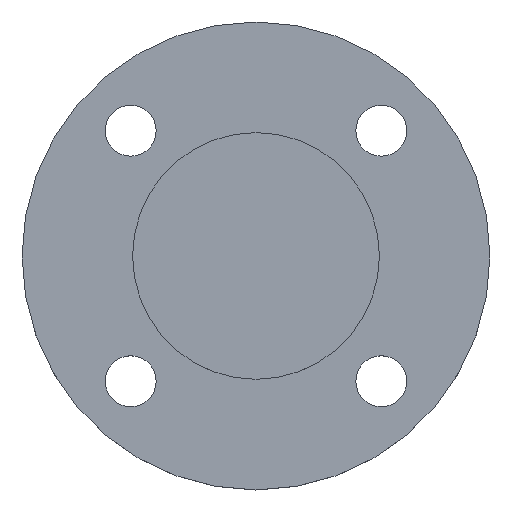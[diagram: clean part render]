
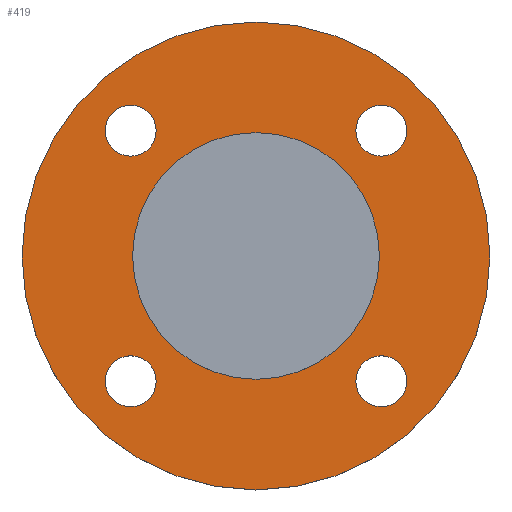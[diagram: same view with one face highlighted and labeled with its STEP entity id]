
A CAD part, top view. The second image highlights one B-rep face of the part: STEP entity #419.
In plain terms, the highlighted planar face has unit normal (0, 0, 1).
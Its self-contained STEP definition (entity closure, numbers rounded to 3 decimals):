
#7 = EDGE_CURVE ( 'NONE', #604, #645, #9, .T. ) ;
#9 = CIRCLE ( 'NONE', #10, 9. ) ;
#10 = AXIS2_PLACEMENT_3D ( 'NONE', #654, #658, #659 ) ;
#11 = EDGE_CURVE ( 'NONE', #600, #479, #18, .T. ) ;
#16 = AXIS2_PLACEMENT_3D ( 'NONE', #210, #365, #408 ) ;
#18 = CIRCLE ( 'NONE', #19, 9. ) ;
#19 = AXIS2_PLACEMENT_3D ( 'NONE', #661, #665, #666 ) ;
#20 = AXIS2_PLACEMENT_3D ( 'NONE', #100, #99, #96 ) ;
#23 = EDGE_CURVE ( 'NONE', #645, #604, #50, .T. ) ;
#26 = EDGE_CURVE ( 'NONE', #479, #600, #63, .T. ) ;
#50 = CIRCLE ( 'NONE', #62, 9. ) ;
#62 = AXIS2_PLACEMENT_3D ( 'NONE', #691, #692, #693 ) ;
#63 = CIRCLE ( 'NONE', #70, 9. ) ;
#70 = AXIS2_PLACEMENT_3D ( 'NONE', #700, #701, #702 ) ;
#84 = CARTESIAN_POINT ( 'NONE',  ( 43.5, 0., -4.5 ) ) ;
#89 = CARTESIAN_POINT ( 'NONE',  ( -35.194, 44.194, -4.5 ) ) ;
#96 = DIRECTION ( 'NONE',  ( -1., 0., 0. ) ) ;
#99 = DIRECTION ( 'NONE',  ( 0., 0., -1. ) ) ;
#100 = CARTESIAN_POINT ( 'NONE',  ( 0., 0., -4.5 ) ) ;
#105 = CARTESIAN_POINT ( 'NONE',  ( -53.194, 44.194, -4.5 ) ) ;
#106 = CARTESIAN_POINT ( 'NONE',  ( -53.194, -44.194, -4.5 ) ) ;
#112 = CARTESIAN_POINT ( 'NONE',  ( 35.194, 44.194, -4.5 ) ) ;
#114 = CARTESIAN_POINT ( 'NONE',  ( 35.194, -44.194, -4.5 ) ) ;
#117 = CIRCLE ( 'NONE', #20, 43.5 ) ;
#120 = CARTESIAN_POINT ( 'NONE',  ( 53.194, 44.194, -4.5 ) ) ;
#136 = EDGE_CURVE ( 'NONE', #454, #462, #238, .T. ) ;
#148 = EDGE_CURVE ( 'NONE', #461, #647, #275, .T. ) ;
#152 = CARTESIAN_POINT ( 'NONE',  ( 53.194, -44.194, -4.5 ) ) ;
#160 = CARTESIAN_POINT ( 'NONE',  ( -35.194, -44.194, -4.5 ) ) ;
#192 = EDGE_CURVE ( 'NONE', #493, #569, #320, .T. ) ;
#203 = CARTESIAN_POINT ( 'NONE',  ( 82.5, 0., -4.5 ) ) ;
#210 = CARTESIAN_POINT ( 'NONE',  ( 44.194, 44.194, -4.5 ) ) ;
#214 = EDGE_CURVE ( 'NONE', #462, #454, #324, .T. ) ;
#231 = CARTESIAN_POINT ( 'NONE',  ( 0., 0., -4.5 ) ) ;
#233 = DIRECTION ( 'NONE',  ( 0., 0., -1. ) ) ;
#234 = DIRECTION ( 'NONE',  ( -1., 0., 0. ) ) ;
#238 = CIRCLE ( 'NONE', #253, 82.5 ) ;
#240 = CARTESIAN_POINT ( 'NONE',  ( 0., 0., -4.5 ) ) ;
#242 = DIRECTION ( 'NONE',  ( 0., 0., -1. ) ) ;
#243 = DIRECTION ( 'NONE',  ( -1., 0., 0. ) ) ;
#253 = AXIS2_PLACEMENT_3D ( 'NONE', #231, #233, #234 ) ;
#263 = CARTESIAN_POINT ( 'NONE',  ( 44.194, -44.194, -4.5 ) ) ;
#264 = DIRECTION ( 'NONE',  ( 0., 0., -1. ) ) ;
#266 = DIRECTION ( 'NONE',  ( 1., 0., 0. ) ) ;
#268 = CARTESIAN_POINT ( 'NONE',  ( 0., 0., -4.5 ) ) ;
#269 = DIRECTION ( 'NONE',  ( 0., 0., -1. ) ) ;
#270 = DIRECTION ( 'NONE',  ( -1., 0., 0. ) ) ;
#275 = CIRCLE ( 'NONE', #277, 43.5 ) ;
#277 = AXIS2_PLACEMENT_3D ( 'NONE', #240, #242, #243 ) ;
#293 = CARTESIAN_POINT ( 'NONE',  ( 44.194, 44.194, -4.5 ) ) ;
#295 = DIRECTION ( 'NONE',  ( 0., 0., -1. ) ) ;
#296 = DIRECTION ( 'NONE',  ( 1., 0., 0. ) ) ;
#300 = CARTESIAN_POINT ( 'NONE',  ( 44.194, -44.194, -4.5 ) ) ;
#301 = DIRECTION ( 'NONE',  ( 0., 0., -1. ) ) ;
#303 = DIRECTION ( 'NONE',  ( 1., 0., 0. ) ) ;
#320 = CIRCLE ( 'NONE', #322, 9. ) ;
#322 = AXIS2_PLACEMENT_3D ( 'NONE', #263, #264, #266 ) ;
#324 = CIRCLE ( 'NONE', #336, 82.5 ) ;
#336 = AXIS2_PLACEMENT_3D ( 'NONE', #268, #269, #270 ) ;
#344 = FACE_BOUND ( 'NONE', #643, .T. ) ;
#345 = FACE_BOUND ( 'NONE', #639, .T. ) ;
#346 = FACE_BOUND ( 'NONE', #467, .T. ) ;
#347 = FACE_BOUND ( 'NONE', #465, .T. ) ;
#348 = FACE_BOUND ( 'NONE', #463, .T. ) ;
#349 = FACE_OUTER_BOUND ( 'NONE', #456, .T. ) ;
#350 = PLANE ( 'NONE',  #415 ) ;
#351 = CARTESIAN_POINT ( 'NONE',  ( 43.5, 0., -4.5 ) ) ;
#352 = DIRECTION ( 'NONE',  ( 0., 0., 1. ) ) ;
#353 = DIRECTION ( 'NONE',  ( 1., 0., 0. ) ) ;
#364 = CIRCLE ( 'NONE', #372, 9. ) ;
#365 = DIRECTION ( 'NONE',  ( 0., 0., -1. ) ) ;
#372 = AXIS2_PLACEMENT_3D ( 'NONE', #293, #295, #296 ) ;
#381 = CIRCLE ( 'NONE', #383, 9. ) ;
#383 = AXIS2_PLACEMENT_3D ( 'NONE', #300, #301, #303 ) ;
#385 = EDGE_CURVE ( 'NONE', #549, #579, #364, .T. ) ;
#389 = EDGE_CURVE ( 'NONE', #569, #493, #381, .T. ) ;
#408 = DIRECTION ( 'NONE',  ( 1., 0., 0. ) ) ;
#415 = AXIS2_PLACEMENT_3D ( 'NONE', #351, #352, #353 ) ;
#419 = ADVANCED_FACE ( 'NONE', ( #344, #345, #346, #347, #348, #349 ), #350, .T. ) ;
#437 = CARTESIAN_POINT ( 'NONE',  ( -82.5, 0., -4.5 ) ) ;
#451 = EDGE_CURVE ( 'NONE', #579, #549, #730, .T. ) ;
#454 = VERTEX_POINT ( 'NONE', #203 ) ;
#456 = EDGE_LOOP ( 'NONE', ( #574, #575 ) ) ;
#461 = VERTEX_POINT ( 'NONE', #586 ) ;
#462 = VERTEX_POINT ( 'NONE', #437 ) ;
#463 = EDGE_LOOP ( 'NONE', ( #571, #572 ) ) ;
#465 = EDGE_LOOP ( 'NONE', ( #567, #568 ) ) ;
#467 = EDGE_LOOP ( 'NONE', ( #564, #566 ) ) ;
#479 = VERTEX_POINT ( 'NONE', #160 ) ;
#493 = VERTEX_POINT ( 'NONE', #152 ) ;
#549 = VERTEX_POINT ( 'NONE', #120 ) ;
#560 = ORIENTED_EDGE ( 'NONE', *, *, #192, .T. ) ;
#561 = ORIENTED_EDGE ( 'NONE', *, *, #389, .T. ) ;
#562 = ORIENTED_EDGE ( 'NONE', *, *, #26, .T. ) ;
#563 = ORIENTED_EDGE ( 'NONE', *, *, #11, .T. ) ;
#564 = ORIENTED_EDGE ( 'NONE', *, *, #23, .T. ) ;
#566 = ORIENTED_EDGE ( 'NONE', *, *, #7, .T. ) ;
#567 = ORIENTED_EDGE ( 'NONE', *, *, #385, .T. ) ;
#568 = ORIENTED_EDGE ( 'NONE', *, *, #451, .T. ) ;
#569 = VERTEX_POINT ( 'NONE', #114 ) ;
#571 = ORIENTED_EDGE ( 'NONE', *, *, #148, .T. ) ;
#572 = ORIENTED_EDGE ( 'NONE', *, *, #611, .T. ) ;
#574 = ORIENTED_EDGE ( 'NONE', *, *, #136, .F. ) ;
#575 = ORIENTED_EDGE ( 'NONE', *, *, #214, .F. ) ;
#579 = VERTEX_POINT ( 'NONE', #112 ) ;
#586 = CARTESIAN_POINT ( 'NONE',  ( -43.5, 0., -4.5 ) ) ;
#600 = VERTEX_POINT ( 'NONE', #106 ) ;
#604 = VERTEX_POINT ( 'NONE', #105 ) ;
#611 = EDGE_CURVE ( 'NONE', #647, #461, #117, .T. ) ;
#639 = EDGE_LOOP ( 'NONE', ( #562, #563 ) ) ;
#643 = EDGE_LOOP ( 'NONE', ( #560, #561 ) ) ;
#645 = VERTEX_POINT ( 'NONE', #89 ) ;
#647 = VERTEX_POINT ( 'NONE', #84 ) ;
#654 = CARTESIAN_POINT ( 'NONE',  ( -44.194, 44.194, -4.5 ) ) ;
#658 = DIRECTION ( 'NONE',  ( 0., 0., -1. ) ) ;
#659 = DIRECTION ( 'NONE',  ( 1., 0., 0. ) ) ;
#661 = CARTESIAN_POINT ( 'NONE',  ( -44.194, -44.194, -4.5 ) ) ;
#665 = DIRECTION ( 'NONE',  ( 0., 0., -1. ) ) ;
#666 = DIRECTION ( 'NONE',  ( 1., 0., 0. ) ) ;
#691 = CARTESIAN_POINT ( 'NONE',  ( -44.194, 44.194, -4.5 ) ) ;
#692 = DIRECTION ( 'NONE',  ( 0., 0., -1. ) ) ;
#693 = DIRECTION ( 'NONE',  ( 1., 0., 0. ) ) ;
#700 = CARTESIAN_POINT ( 'NONE',  ( -44.194, -44.194, -4.5 ) ) ;
#701 = DIRECTION ( 'NONE',  ( 0., 0., -1. ) ) ;
#702 = DIRECTION ( 'NONE',  ( 1., 0., 0. ) ) ;
#730 = CIRCLE ( 'NONE', #16, 9. ) ;
